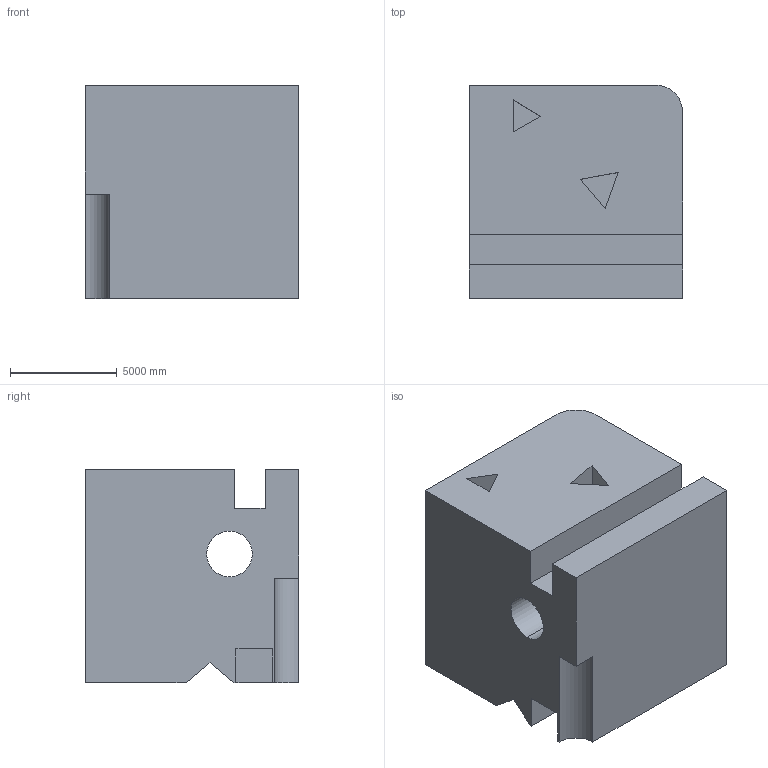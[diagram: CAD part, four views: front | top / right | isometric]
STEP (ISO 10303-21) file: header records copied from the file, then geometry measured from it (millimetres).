
FILE_DESCRIPTION (( 'STEP AP203' ), '1' );
FILE_NAME ('1713.STEP', '2022-08-19T11:58:53', ( 'user' ), ( '' ), 'SwSTEP 2.0', 'SolidWorks 2021', '' );
FILE_SCHEMA (( 'CONFIG_CONTROL_DESIGN' ));
Length unit declared in the file: centimetre
Products named in the file (1): 1713
Bounding box: 10000 x 10000 x 10000 mm (x, y, z)
Volume: 898041477501.5 mm3; surface area: 742694112.6 mm2
Topology: 1 solids, 1 shells, 30 faces, 78 edges, 52 vertices
Faces by surface type: plane 26, cylinder 4
Entity records: 991 total; most frequent: CARTESIAN_POINT 161, ORIENTED_EDGE 156, DIRECTION 148, EDGE_CURVE 78, VECTOR 70, LINE 70, VERTEX_POINT 52, AXIS2_PLACEMENT_3D 39
